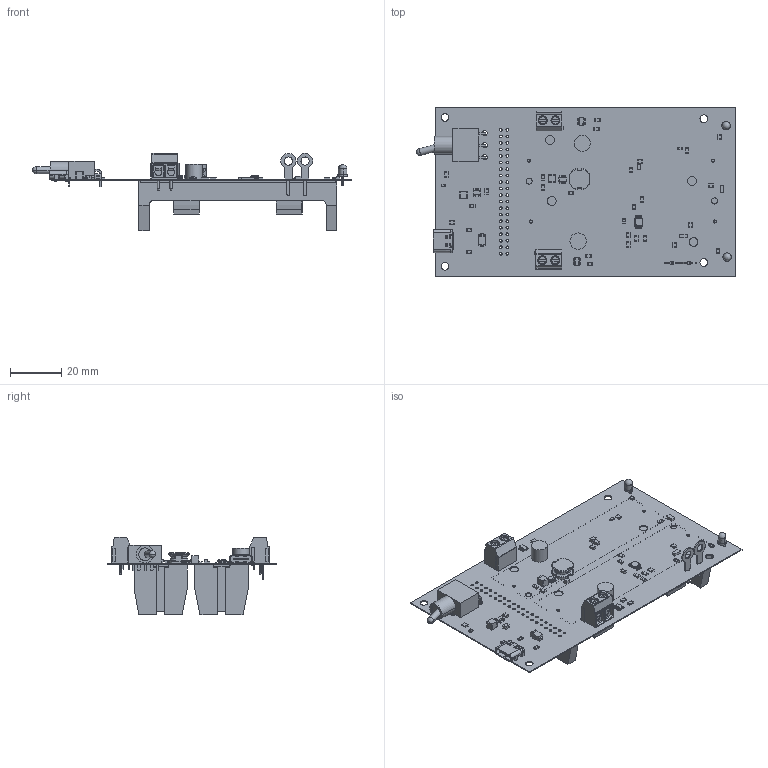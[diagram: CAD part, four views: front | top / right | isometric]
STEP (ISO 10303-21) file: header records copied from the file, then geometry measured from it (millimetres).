
FILE_DESCRIPTION(('Open CASCADE Model'),'2;1');
FILE_NAME('Open CASCADE Shape Model','2026-06-10T19:26:33',('Author'),( 'Open CASCADE'),'Open CASCADE STEP processor 6.8','Open CASCADE 6.8' ,'Unknown');
FILE_SCHEMA(('AUTOMOTIVE_DESIGN { 1 0 10303 214 1 1 1 1 }'));
Products named in the file (1): PCB
Bounding box: 124.28 x 65.91 x 30.09 mm (x, y, z)
Volume: 20856 mm3; surface area: 46048.5 mm2
Topology: 148 solids, 874 shells, 3073 faces, 9274 edges, 7172 vertices
Faces by surface type: plane 2092, cylinder 613, bspline 218, sphere 70, torus 50, cone 30
Full cylindrical faces by diameter (mm): 0.085 x3, 0.2 x1, 0.5 x2, 0.762 x4, 1.02 x40, 1.19 x4, 1.3 x4, 1.398 x2, 1.906 x5, 2.2 x2, 2.39 x2, 3 x4, 3.45 x4, 6.3 x2
Entity records: 110718 total; most frequent: CARTESIAN_POINT 22916, DIRECTION 15808, ORIENTED_EDGE 14772, EDGE_CURVE 9216, VERTEX_POINT 7172, LINE 6784, VECTOR 6784, AXIS2_PLACEMENT_3D 4512
